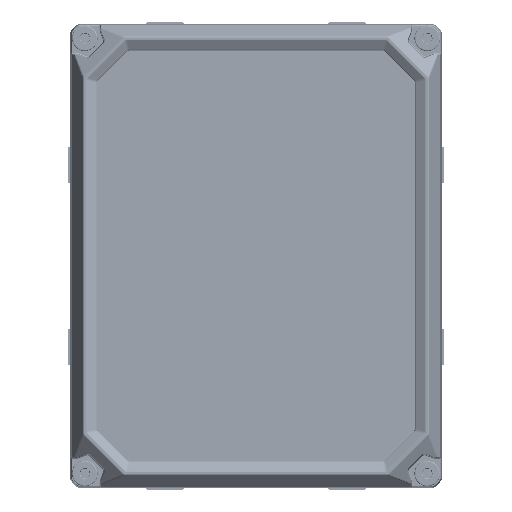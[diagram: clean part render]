
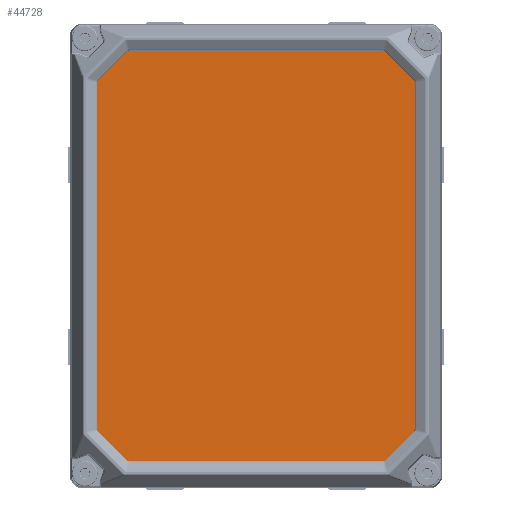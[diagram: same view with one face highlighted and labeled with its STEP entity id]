
A CAD part, top view. The second image highlights one B-rep face of the part: STEP entity #44728.
In plain terms, the highlighted planar face has unit normal (0, 0, 1).
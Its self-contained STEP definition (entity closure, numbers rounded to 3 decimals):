
#44728=ADVANCED_FACE('',(#54003),#47113,.F.);
#47113=PLANE('',#150630);
#54003=FACE_OUTER_BOUND('',#61659,.T.);
#61659=EDGE_LOOP('',(#97043,#97044,#97045,#97046,#97047,#97048,#97049,#97050,
#97051,#97052,#97053,#97054,#97055,#97056,#97057,#97058));
#64294=ELLIPSE('',#150545,1.001,1.);
#64295=ELLIPSE('',#150547,1.001,1.);
#64296=ELLIPSE('',#150549,1.001,1.);
#64297=ELLIPSE('',#150551,1.001,1.);
#64298=ELLIPSE('',#150553,1.001,1.);
#64299=ELLIPSE('',#150555,1.001,1.);
#64300=ELLIPSE('',#150557,1.001,1.);
#64301=ELLIPSE('',#150559,1.001,1.);
#97043=ORIENTED_EDGE('',*,*,#125533,.T.);
#97044=ORIENTED_EDGE('',*,*,#125463,.T.);
#97045=ORIENTED_EDGE('',*,*,#125540,.T.);
#97046=ORIENTED_EDGE('',*,*,#125485,.T.);
#97047=ORIENTED_EDGE('',*,*,#125539,.T.);
#97048=ORIENTED_EDGE('',*,*,#125481,.T.);
#97049=ORIENTED_EDGE('',*,*,#125538,.T.);
#97050=ORIENTED_EDGE('',*,*,#125479,.T.);
#97051=ORIENTED_EDGE('',*,*,#125537,.T.);
#97052=ORIENTED_EDGE('',*,*,#125475,.T.);
#97053=ORIENTED_EDGE('',*,*,#125536,.T.);
#97054=ORIENTED_EDGE('',*,*,#125473,.T.);
#97055=ORIENTED_EDGE('',*,*,#125535,.T.);
#97056=ORIENTED_EDGE('',*,*,#125469,.T.);
#97057=ORIENTED_EDGE('',*,*,#125534,.T.);
#97058=ORIENTED_EDGE('',*,*,#125467,.T.);
#108550=VERTEX_POINT('',#282362);
#108551=VERTEX_POINT('',#282364);
#108552=VERTEX_POINT('',#282368);
#108553=VERTEX_POINT('',#282370);
#108554=VERTEX_POINT('',#282374);
#108555=VERTEX_POINT('',#282376);
#108556=VERTEX_POINT('',#282380);
#108557=VERTEX_POINT('',#282382);
#108558=VERTEX_POINT('',#282386);
#108559=VERTEX_POINT('',#282388);
#108560=VERTEX_POINT('',#282392);
#108561=VERTEX_POINT('',#282394);
#108562=VERTEX_POINT('',#282398);
#108563=VERTEX_POINT('',#282400);
#108564=VERTEX_POINT('',#282404);
#108565=VERTEX_POINT('',#282406);
#125463=EDGE_CURVE('',#108551,#108550,#64294,.T.);
#125467=EDGE_CURVE('',#108552,#108553,#64295,.T.);
#125469=EDGE_CURVE('',#108555,#108554,#64296,.T.);
#125473=EDGE_CURVE('',#108556,#108557,#64297,.T.);
#125475=EDGE_CURVE('',#108559,#108558,#64298,.T.);
#125479=EDGE_CURVE('',#108560,#108561,#64299,.T.);
#125481=EDGE_CURVE('',#108563,#108562,#64300,.T.);
#125485=EDGE_CURVE('',#108564,#108565,#64301,.T.);
#125533=EDGE_CURVE('',#108553,#108551,#132771,.T.);
#125534=EDGE_CURVE('',#108554,#108552,#132772,.T.);
#125535=EDGE_CURVE('',#108557,#108555,#132773,.T.);
#125536=EDGE_CURVE('',#108558,#108556,#132774,.T.);
#125537=EDGE_CURVE('',#108561,#108559,#132775,.T.);
#125538=EDGE_CURVE('',#108562,#108560,#132776,.T.);
#125539=EDGE_CURVE('',#108565,#108563,#132777,.T.);
#125540=EDGE_CURVE('',#108550,#108564,#132778,.T.);
#132771=LINE('',#282703,#139466);
#132772=LINE('',#282705,#139467);
#132773=LINE('',#282707,#139468);
#132774=LINE('',#282709,#139469);
#132775=LINE('',#282711,#139470);
#132776=LINE('',#282713,#139471);
#132777=LINE('',#282715,#139472);
#132778=LINE('',#282717,#139473);
#139466=VECTOR('',#179643,1.);
#139467=VECTOR('',#179646,1.);
#139468=VECTOR('',#179649,1.);
#139469=VECTOR('',#179652,1.);
#139470=VECTOR('',#179655,1.);
#139471=VECTOR('',#179658,1.);
#139472=VECTOR('',#179661,1.);
#139473=VECTOR('',#179664,1.);
#150545=AXIS2_PLACEMENT_3D('',#282363,#179491,#179492);
#150547=AXIS2_PLACEMENT_3D('',#282371,#179498,#179499);
#150549=AXIS2_PLACEMENT_3D('',#282375,#179503,#179504);
#150551=AXIS2_PLACEMENT_3D('',#282383,#179510,#179511);
#150553=AXIS2_PLACEMENT_3D('',#282387,#179515,#179516);
#150555=AXIS2_PLACEMENT_3D('',#282395,#179522,#179523);
#150557=AXIS2_PLACEMENT_3D('',#282399,#179527,#179528);
#150559=AXIS2_PLACEMENT_3D('',#282407,#179534,#179535);
#150630=AXIS2_PLACEMENT_3D('',#282738,#179704,#179705);
#179491=DIRECTION('',(0.,0.,1.));
#179492=DIRECTION('',(0.924,-0.383,0.));
#179498=DIRECTION('',(0.,0.,1.));
#179499=DIRECTION('',(0.383,-0.924,0.));
#179503=DIRECTION('',(0.,0.,1.));
#179504=DIRECTION('',(-0.383,-0.924,0.));
#179510=DIRECTION('',(0.,0.,1.));
#179511=DIRECTION('',(-0.924,-0.383,0.));
#179515=DIRECTION('',(0.,0.,1.));
#179516=DIRECTION('',(-0.924,0.383,0.));
#179522=DIRECTION('',(0.,0.,1.));
#179523=DIRECTION('',(-0.383,0.924,0.));
#179527=DIRECTION('',(0.,0.,1.));
#179528=DIRECTION('',(0.383,0.924,0.));
#179534=DIRECTION('',(0.,0.,1.));
#179535=DIRECTION('',(0.924,0.383,0.));
#179643=DIRECTION('',(0.707,0.707,0.));
#179646=DIRECTION('',(1.,0.,0.));
#179649=DIRECTION('',(0.707,-0.707,0.));
#179652=DIRECTION('',(0.,-1.,0.));
#179655=DIRECTION('',(-0.707,-0.707,0.));
#179658=DIRECTION('',(-1.,0.,0.));
#179661=DIRECTION('',(-0.707,0.707,0.));
#179664=DIRECTION('',(0.,1.,0.));
#179704=DIRECTION('',(0.,0.,-1.));
#179705=DIRECTION('',(-1.,0.,0.));
#282362=CARTESIAN_POINT('',(42.8,-46.546,115.5));
#282363=CARTESIAN_POINT('',(41.799,-46.546,115.5));
#282364=CARTESIAN_POINT('',(42.507,-47.253,115.5));
#282368=CARTESIAN_POINT('',(34.046,-55.3,115.5));
#282370=CARTESIAN_POINT('',(34.753,-55.007,115.5));
#282371=CARTESIAN_POINT('',(34.046,-54.299,115.5));
#282374=CARTESIAN_POINT('',(-34.046,-55.3,115.5));
#282375=CARTESIAN_POINT('',(-34.046,-54.299,115.5));
#282376=CARTESIAN_POINT('',(-34.753,-55.007,115.5));
#282380=CARTESIAN_POINT('',(-42.8,-46.546,115.5));
#282382=CARTESIAN_POINT('',(-42.507,-47.253,115.5));
#282383=CARTESIAN_POINT('',(-41.799,-46.546,115.5));
#282386=CARTESIAN_POINT('',(-42.8,46.546,115.5));
#282387=CARTESIAN_POINT('',(-41.799,46.546,115.5));
#282388=CARTESIAN_POINT('',(-42.507,47.253,115.5));
#282392=CARTESIAN_POINT('',(-34.046,55.3,115.5));
#282394=CARTESIAN_POINT('',(-34.753,55.007,115.5));
#282395=CARTESIAN_POINT('',(-34.046,54.299,115.5));
#282398=CARTESIAN_POINT('',(34.046,55.3,115.5));
#282399=CARTESIAN_POINT('',(34.046,54.299,115.5));
#282400=CARTESIAN_POINT('',(34.753,55.007,115.5));
#282404=CARTESIAN_POINT('',(42.8,46.546,115.5));
#282406=CARTESIAN_POINT('',(42.507,47.253,115.5));
#282407=CARTESIAN_POINT('',(41.799,46.546,115.5));
#282703=CARTESIAN_POINT('',(42.8,-46.96,115.5));
#282705=CARTESIAN_POINT('',(34.46,-55.3,115.5));
#282707=CARTESIAN_POINT('',(-34.46,-55.3,115.5));
#282709=CARTESIAN_POINT('',(-42.8,-46.96,115.5));
#282711=CARTESIAN_POINT('',(-42.8,46.96,115.5));
#282713=CARTESIAN_POINT('',(-34.46,55.3,115.5));
#282715=CARTESIAN_POINT('',(34.46,55.3,115.5));
#282717=CARTESIAN_POINT('',(42.8,46.96,115.5));
#282738=CARTESIAN_POINT('',(-42.285,46.747,115.5));
